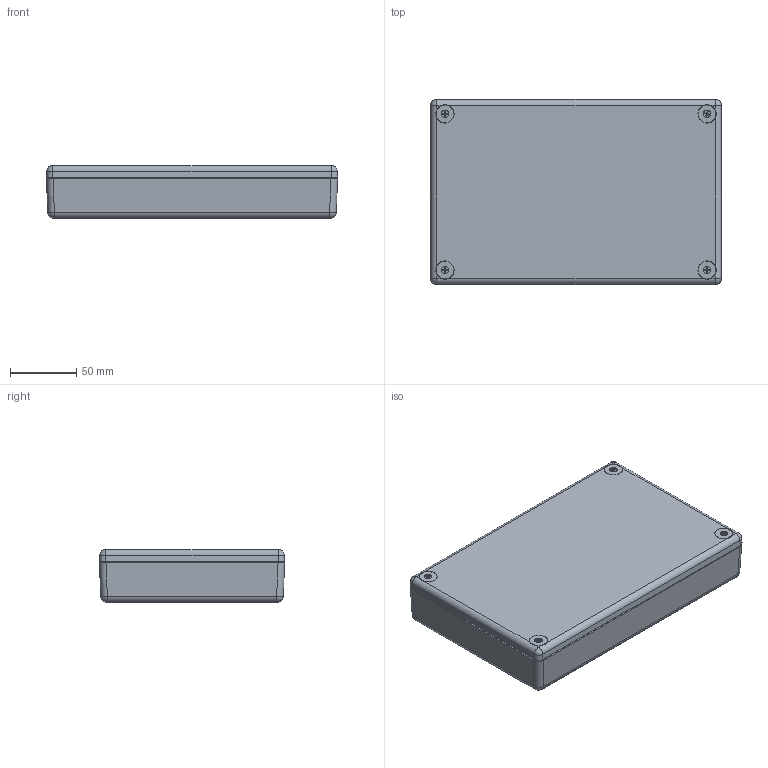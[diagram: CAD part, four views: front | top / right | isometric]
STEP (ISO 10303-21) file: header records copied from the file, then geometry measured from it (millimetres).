
FILE_DESCRIPTION(/* description */ (''),/* implementation_level */ '2;1');
FILE_NAME(/* name */ 'E:\Eng\Customer Service\Drawings\working on 1599\STEP\1599K\1599K.iam.stp',/* time_stamp */ '2017-11-14T09:00:09-05:00',/* author */ ('avernon'),/* organization */ (''),/* preprocessor_version */ 'ST-DEVELOPER v17',/* originating_system */ 'Autodesk Inventor 2018',/* authorisation */ '');
FILE_SCHEMA (('AUTOMOTIVE_DESIGN { 1 0 10303 214 3 1 1 }'));
Products named in the file (5): 1599K; 1599K Lid; 1599K Box; SC500 (screw M3-0.5X 10mm FH); Insert
Assembly tree (10 placements, depth 2):
  1599K
    1599K Lid
    1599K Box
    SC500 (screw M3-0.5X 10mm FH)  x4
    Insert  x4
Bounding box: 220 x 140 x 40.1 mm (x, y, z)
Volume: 252349.6 mm3; surface area: 180469.2 mm2
Topology: 10 solids, 10 shells, 1380 faces, 3735 edges, 2488 vertices
Faces by surface type: plane 518, bspline 490, cylinder 300, cone 56, sphere 16
Full cylindrical faces by diameter (mm): 2.362 x16, 2.464 x4, 2.75 x8, 2.91 x4, 3.454 x4, 3.81 x12, 3.912 x4, 4 x4, 4.75 x16, 5.5 x4, 5.75 x4, 7.9 x8, 13.5 x4, 13.8 x4
Entity records: 31139 total; most frequent: CARTESIAN_POINT 10530, ORIENTED_EDGE 4652, DIRECTION 3416, EDGE_CURVE 2326, VERTEX_POINT 1552, LINE 1242, VECTOR 1242, AXIS2_PLACEMENT_3D 1087
